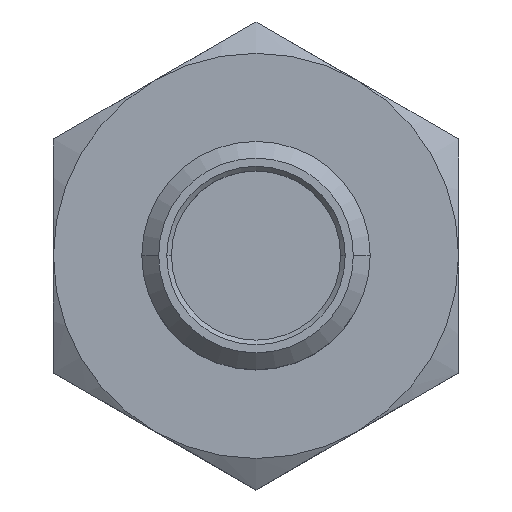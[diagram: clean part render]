
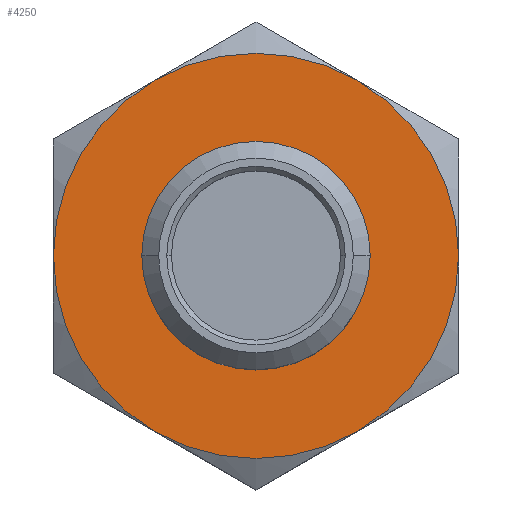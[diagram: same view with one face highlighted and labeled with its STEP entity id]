
A CAD part, top view. The second image highlights one B-rep face of the part: STEP entity #4250.
In plain terms, the highlighted planar face has unit normal (0, 0, 1).
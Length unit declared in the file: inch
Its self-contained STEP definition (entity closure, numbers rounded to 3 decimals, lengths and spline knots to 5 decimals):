
#43 = AXIS2_PLACEMENT_3D ( 'NONE', #2592, #5763, #2038 ) ;
#125 = CIRCLE ( 'NONE', #358, 0.2185 ) ;
#291 = CIRCLE ( 'NONE', #5114, 0.2185 ) ;
#308 = FACE_BOUND ( 'NONE', #2298, .T. ) ;
#358 = AXIS2_PLACEMENT_3D ( 'NONE', #4208, #2622, #1536 ) ;
#461 = CARTESIAN_POINT ( 'NONE',  ( 0., 0., -0.235 ) ) ;
#502 = DIRECTION ( 'NONE',  ( 0., 0., 1. ) ) ;
#734 = VERTEX_POINT ( 'NONE', #4461 ) ;
#966 = CARTESIAN_POINT ( 'NONE',  ( 0., 0., -0.235 ) ) ;
#1033 = DIRECTION ( 'NONE',  ( 0., 0., -1. ) ) ;
#1063 = DIRECTION ( 'NONE',  ( 1., 0., 0. ) ) ;
#1522 = ORIENTED_EDGE ( 'NONE', *, *, #2484, .T. ) ;
#1536 = DIRECTION ( 'NONE',  ( 1., 0., 0. ) ) ;
#1689 = CIRCLE ( 'NONE', #5470, 0.2185 ) ;
#1711 = FACE_OUTER_BOUND ( 'NONE', #2777, .T. ) ;
#1987 = EDGE_CURVE ( 'NONE', #4105, #6867, #4485, .T. ) ;
#2038 = DIRECTION ( 'NONE',  ( 1., 0., 0. ) ) ;
#2105 = CARTESIAN_POINT ( 'NONE',  ( 0., 0., -0.235 ) ) ;
#2210 = ORIENTED_EDGE ( 'NONE', *, *, #2476, .T. ) ;
#2261 = VERTEX_POINT ( 'NONE', #2283 ) ;
#2282 = VERTEX_POINT ( 'NONE', #3971 ) ;
#2283 = CARTESIAN_POINT ( 'NONE',  ( 0.10925, -0.18923, -0.235 ) ) ;
#2298 = EDGE_LOOP ( 'NONE', ( #4013, #5704 ) ) ;
#2335 = VERTEX_POINT ( 'NONE', #6791 ) ;
#2381 = EDGE_CURVE ( 'NONE', #6867, #4105, #3108, .T. ) ;
#2391 = EDGE_CURVE ( 'NONE', #2282, #734, #291, .T. ) ;
#2406 = EDGE_CURVE ( 'NONE', #734, #3764, #1689, .T. ) ;
#2435 = EDGE_CURVE ( 'NONE', #3764, #2261, #5761, .T. ) ;
#2447 = EDGE_CURVE ( 'NONE', #2261, #4117, #4377, .T. ) ;
#2476 = EDGE_CURVE ( 'NONE', #4117, #2335, #4531, .T. ) ;
#2484 = EDGE_CURVE ( 'NONE', #2335, #2282, #125, .T. ) ;
#2592 = CARTESIAN_POINT ( 'NONE',  ( 0., 0., -0.235 ) ) ;
#2622 = DIRECTION ( 'NONE',  ( 0., 0., 1. ) ) ;
#2735 = ORIENTED_EDGE ( 'NONE', *, *, #2406, .T. ) ;
#2777 = EDGE_LOOP ( 'NONE', ( #4081, #2735, #6677, #5437, #2210, #1522 ) ) ;
#3108 = CIRCLE ( 'NONE', #4425, 0.105 ) ;
#3114 = CARTESIAN_POINT ( 'NONE',  ( 0., 0., -0.235 ) ) ;
#3138 = CARTESIAN_POINT ( 'NONE',  ( 0., 0., -0.235 ) ) ;
#3728 = DIRECTION ( 'NONE',  ( 0., 0., 1. ) ) ;
#3748 = DIRECTION ( 'NONE',  ( 1., 0., 0. ) ) ;
#3764 = VERTEX_POINT ( 'NONE', #3888 ) ;
#3779 = CARTESIAN_POINT ( 'NONE',  ( 0., 0., -0.235 ) ) ;
#3888 = CARTESIAN_POINT ( 'NONE',  ( -0.10925, -0.18923, -0.235 ) ) ;
#3971 = CARTESIAN_POINT ( 'NONE',  ( -0.10925, 0.18923, -0.235 ) ) ;
#4013 = ORIENTED_EDGE ( 'NONE', *, *, #1987, .F. ) ;
#4081 = ORIENTED_EDGE ( 'NONE', *, *, #2391, .T. ) ;
#4100 = CARTESIAN_POINT ( 'NONE',  ( -0.105, 0., -0.235 ) ) ;
#4105 = VERTEX_POINT ( 'NONE', #6736 ) ;
#4117 = VERTEX_POINT ( 'NONE', #6198 ) ;
#4173 = AXIS2_PLACEMENT_3D ( 'NONE', #4253, #1033, #4766 ) ;
#4208 = CARTESIAN_POINT ( 'NONE',  ( 0., 0., -0.235 ) ) ;
#4250 = ADVANCED_FACE ( 'NONE', ( #308, #1711 ), #4745, .F. ) ;
#4253 = CARTESIAN_POINT ( 'NONE',  ( 0., 0.105, -0.235 ) ) ;
#4377 = CIRCLE ( 'NONE', #6188, 0.2185 ) ;
#4425 = AXIS2_PLACEMENT_3D ( 'NONE', #2105, #5826, #3748 ) ;
#4461 = CARTESIAN_POINT ( 'NONE',  ( -0.2185, 0., -0.235 ) ) ;
#4485 = CIRCLE ( 'NONE', #43, 0.105 ) ;
#4531 = CIRCLE ( 'NONE', #6876, 0.2185 ) ;
#4723 = DIRECTION ( 'NONE',  ( 1., 0., 0. ) ) ;
#4745 = PLANE ( 'NONE',  #4173 ) ;
#4766 = DIRECTION ( 'NONE',  ( -1., 0., 0. ) ) ;
#5114 = AXIS2_PLACEMENT_3D ( 'NONE', #3138, #5779, #6317 ) ;
#5194 = DIRECTION ( 'NONE',  ( 1., 0., 0. ) ) ;
#5221 = DIRECTION ( 'NONE',  ( 0., 0., 1. ) ) ;
#5241 = DIRECTION ( 'NONE',  ( 0., 0., 1. ) ) ;
#5262 = DIRECTION ( 'NONE',  ( 1., 0., 0. ) ) ;
#5437 = ORIENTED_EDGE ( 'NONE', *, *, #2447, .T. ) ;
#5470 = AXIS2_PLACEMENT_3D ( 'NONE', #3114, #502, #4723 ) ;
#5704 = ORIENTED_EDGE ( 'NONE', *, *, #2381, .F. ) ;
#5761 = CIRCLE ( 'NONE', #5822, 0.2185 ) ;
#5763 = DIRECTION ( 'NONE',  ( 0., 0., 1. ) ) ;
#5779 = DIRECTION ( 'NONE',  ( 0., 0., 1. ) ) ;
#5822 = AXIS2_PLACEMENT_3D ( 'NONE', #3779, #5241, #1063 ) ;
#5826 = DIRECTION ( 'NONE',  ( 0., 0., 1. ) ) ;
#6188 = AXIS2_PLACEMENT_3D ( 'NONE', #461, #3728, #5262 ) ;
#6198 = CARTESIAN_POINT ( 'NONE',  ( 0.2185, 0., -0.235 ) ) ;
#6317 = DIRECTION ( 'NONE',  ( 1., 0., 0. ) ) ;
#6677 = ORIENTED_EDGE ( 'NONE', *, *, #2435, .T. ) ;
#6736 = CARTESIAN_POINT ( 'NONE',  ( 0.105, 0., -0.235 ) ) ;
#6791 = CARTESIAN_POINT ( 'NONE',  ( 0.10925, 0.18923, -0.235 ) ) ;
#6867 = VERTEX_POINT ( 'NONE', #4100 ) ;
#6876 = AXIS2_PLACEMENT_3D ( 'NONE', #966, #5221, #5194 ) ;
